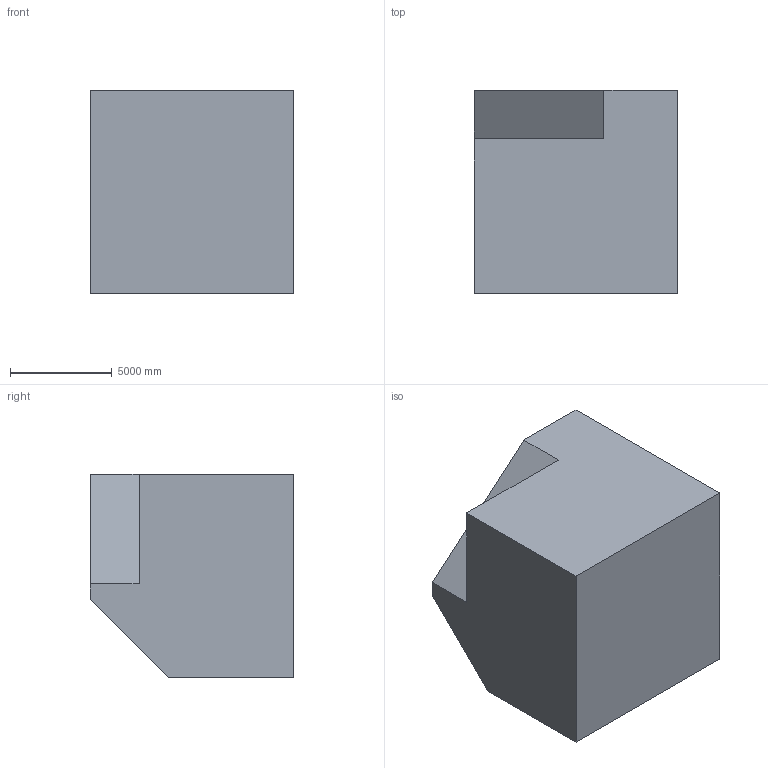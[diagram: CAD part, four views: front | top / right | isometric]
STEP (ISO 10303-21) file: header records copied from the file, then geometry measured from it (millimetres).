
FILE_DESCRIPTION (( 'STEP AP203' ), '1' );
FILE_NAME ('1067.STEP', '2022-08-18T12:37:52', ( 'user' ), ( '' ), 'SwSTEP 2.0', 'SolidWorks 2021', '' );
FILE_SCHEMA (( 'CONFIG_CONTROL_DESIGN' ));
Length unit declared in the file: centimetre
Products named in the file (1): 1067
Bounding box: 10000 x 10000 x 10000 mm (x, y, z)
Volume: 884821931024.5 mm3; surface area: 554463431.3 mm2
Topology: 1 solids, 1 shells, 9 faces, 21 edges, 14 vertices
Faces by surface type: plane 9
Entity records: 332 total; most frequent: CARTESIAN_POINT 45, ORIENTED_EDGE 42, DIRECTION 41, EDGE_CURVE 21, VECTOR 21, LINE 21, VERTEX_POINT 14, AXIS2_PLACEMENT_3D 10
